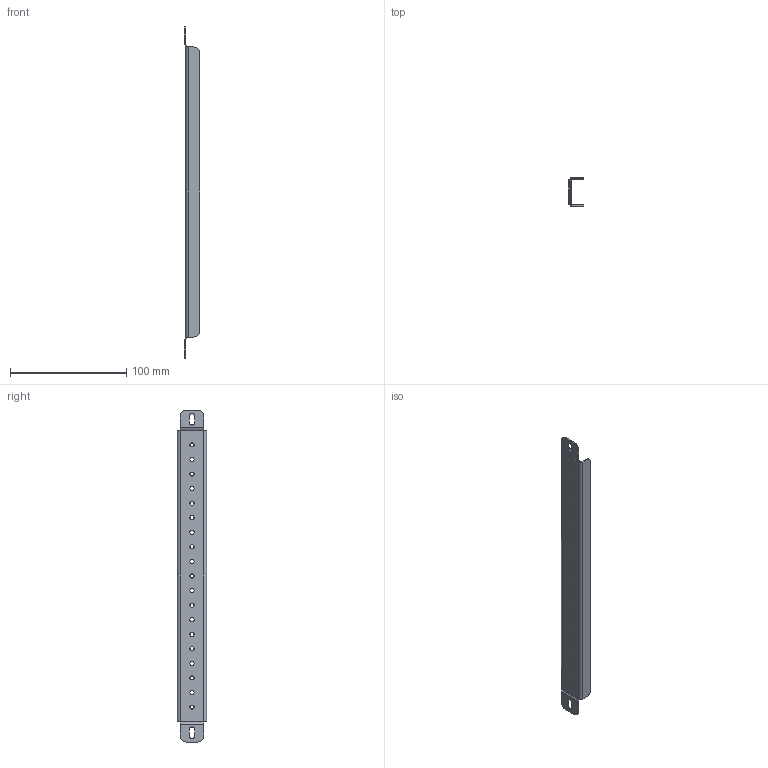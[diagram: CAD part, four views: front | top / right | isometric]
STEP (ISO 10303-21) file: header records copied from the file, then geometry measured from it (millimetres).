
FILE_DESCRIPTION (( 'STEP AP214' ), '1' );
FILE_NAME ('RGC 40 Z_v.2.STEP', '2023-12-25T07:16:13', ( '' ), ( '' ), 'SwSTEP 2.0', 'SolidWorks 2019', '' );
FILE_SCHEMA (( 'AUTOMOTIVE_DESIGN' ));
Length unit declared in the file: millimetre
Products named in the file (1): RGC 40 Z_v.2
Bounding box: 13.2 x 25 x 285 mm (x, y, z)
Volume: 13971.2 mm3; surface area: 24370.7 mm2
Topology: 1 solids, 1 shells, 110 faces, 280 edges, 172 vertices
Faces by surface type: cylinder 62, plane 48
Entity records: 3434 total; most frequent: DIRECTION 626, CARTESIAN_POINT 563, ORIENTED_EDGE 560, EDGE_CURVE 280, AXIS2_PLACEMENT_3D 235, VERTEX_POINT 172, LINE 156, VECTOR 156
